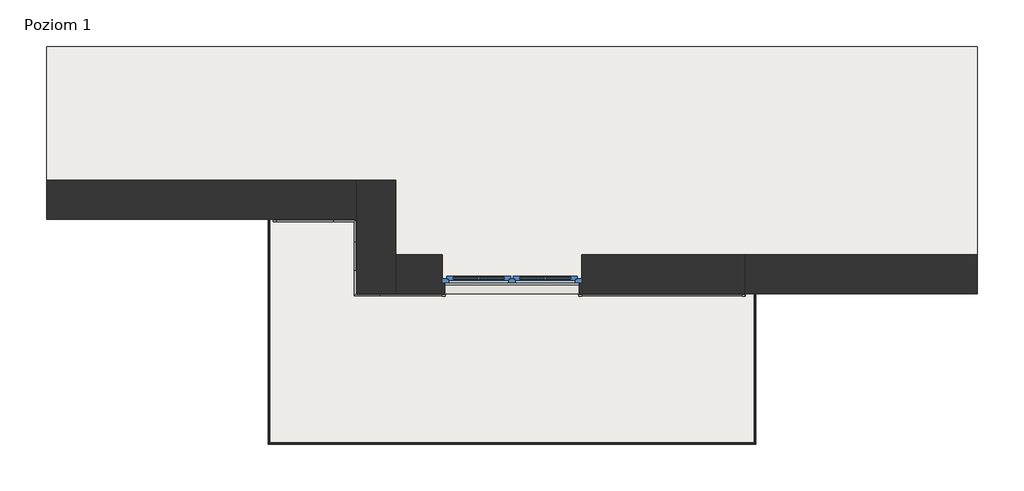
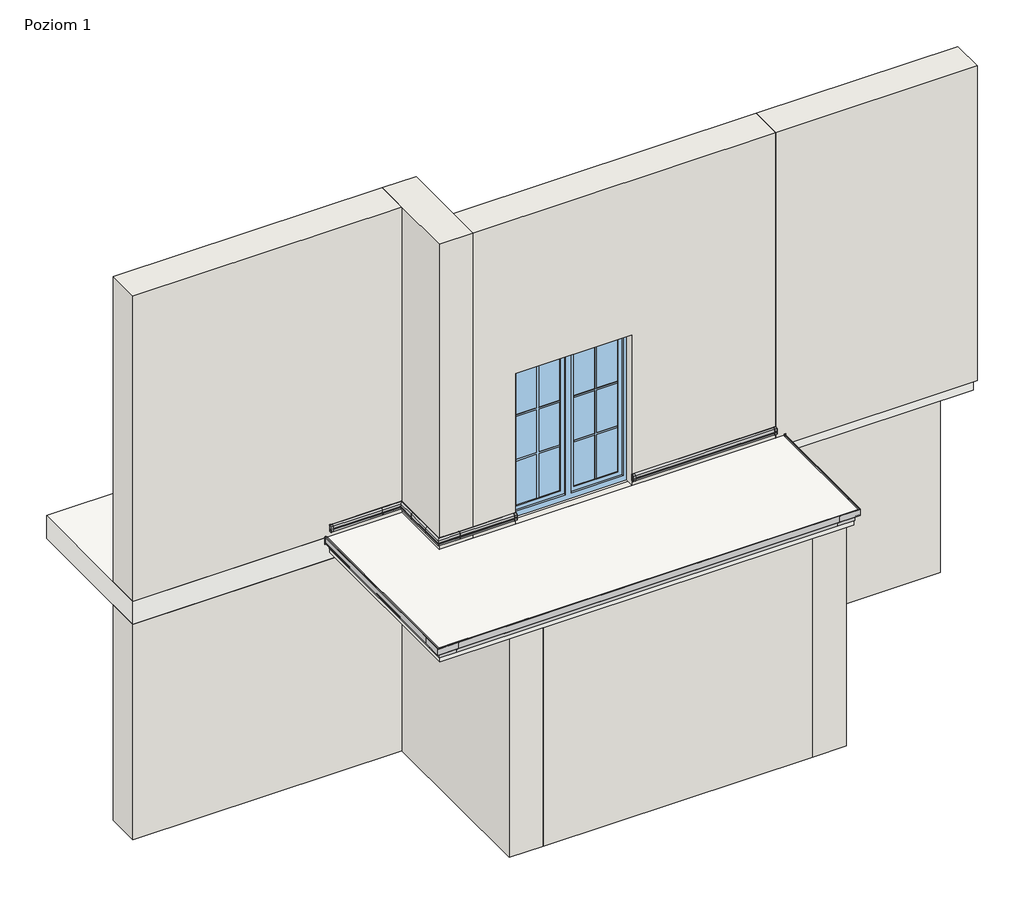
# One storey, part 1 of 4: 17 proxies, 10 walls, 3 slabs, 1 window.
"""IFC4 building model written with IfcOpenShell, lengths in millimetres."""

from ifc_helpers import new_model, si_unit, frame, origin, origin_with_axes, place, context, project, spatial, polyline, outline, extrude, faceted_brep, transform, mapped, element, save
from components import generic_models_5630e756, generic_models_7e4038cf, generic_models_e965f30e, generic_models_d03b9ba1, c1_c1_9b41bbc7, c1_c1_627c1544, c1_c1_27504b22, c1_c1_5f5cac99, c2_53e763b1, c2_f27c1ca5, c2_118964cf, c2_5aa5cb82, w63_5dd79a54, w63_d7f169f1, w63_e9272406, window_150x200_12b14935

model = new_model("IFC4")

# Units and contexts
model_context = context("Model", 3, world=origin())
ifc_project = project(units=[si_unit("LENGTHUNIT", "METRE", prefix="MILLI")], contexts=[model_context])

# Site, building, storey
site = spatial("IfcSite", under=ifc_project)
building = spatial("IfcBuilding", under=site)
storey = spatial("IfcBuildingStorey", under=building, Name="Poziom 1", Elevation=0.0)

# Proxies
placement = place(None, origin())
generic_models_shape = generic_models_5630e756(model_context)
element("IfcBuildingElementProxy", 1, Name="Odbojniki - OPW63 : Odbojniki - OPW63", ObjectType="Odbojniki - OPW63 : Odbojniki - OPW63", at=placement, inside=storey, context=model_context, shape_type="MappedRepresentation", body=[
    mapped(generic_models_shape, transform((-100537.9865026, 45260.2483344, -55.0), x_axis=(0.0, -1.0, 0.0), y_axis=(1.0, 0.0, 0.0), z_axis=(0.0, 0.0, 1.0))),
])
generic_models_2_shape = generic_models_7e4038cf(model_context)
element("IfcBuildingElementProxy", 2, Name="Odbojniki - OPW63 : Odbojniki - OPW63", ObjectType="Odbojniki - OPW63 : Odbojniki - OPW63", at=placement, inside=storey, context=model_context, shape_type="MappedRepresentation", body=[
    mapped(generic_models_2_shape, transform((-105770.4865026, 46060.2483344, -55.0), x_axis=(0.0, -1.0, 0.0), y_axis=(1.0, 0.0, 0.0), z_axis=(0.0, 0.0, 1.0))),
])
generic_models_3_shape = generic_models_e965f30e(model_context)
element("IfcBuildingElementProxy", 3, Name="Zakonczenia cokolowe OPC2 : Zakonczenia cokolowe OPC2", ObjectType="Zakonczenia cokolowe OPC2 : Zakonczenia cokolowe OPC2", at=placement, inside=storey, context=model_context, shape_type="MappedRepresentation", body=[
    mapped(generic_models_3_shape, transform((-102435.2365026, 45237.6483331, 151.7982018), x_axis=(0.0, 0.0, 1.0), y_axis=(0.0, -1.0, 0.0), z_axis=(1.0, 0.0, 0.0))),
])
element("IfcBuildingElementProxy", 4, Name="Zakonczenia cokolowe OPC2 : Zakonczenia cokolowe OPC2", ObjectType="Zakonczenia cokolowe OPC2 : Zakonczenia cokolowe OPC2", at=placement, inside=storey, context=model_context, shape_type="MappedRepresentation", body=[
    mapped(generic_models_3_shape, transform((-105718.2365026, 46037.6483331, 151.7982018), x_axis=(0.0, 0.0, 1.0), y_axis=(0.0, -1.0, 0.0), z_axis=(1.0, 0.0, 0.0))),
])
generic_models_4_shape = generic_models_d03b9ba1(model_context)
element("IfcBuildingElementProxy", 5, Name="Zakonczenia cokolowe OPC2 : Zakonczenia cokolowe OPC2", ObjectType="Zakonczenia cokolowe OPC2 : Zakonczenia cokolowe OPC2", at=placement, inside=storey, context=model_context, shape_type="MappedRepresentation", body=[
    mapped(generic_models_4_shape, transform((-100653.2365026, 45237.6483331, 151.7982018), x_axis=(0.0, 0.0, 1.0), y_axis=(0.0, 1.0, 0.0), z_axis=(-1.0, 0.0, 0.0))),
])
element("IfcBuildingElementProxy", 6, Name="Zakonczenia cokolowe OPC2 : Zakonczenia cokolowe OPC2", ObjectType="Zakonczenia cokolowe OPC2 : Zakonczenia cokolowe OPC2", at=placement, inside=storey, context=model_context, shape_type="MappedRepresentation", body=[
    mapped(generic_models_4_shape, transform((-103873.2365026, 45237.6483331, 151.7982018), x_axis=(0.0, 0.0, 1.0), y_axis=(0.0, 1.0, 0.0), z_axis=(-1.0, 0.0, 0.0))),
])
c1_c1_shape = c1_c1_9b41bbc7(model_context)
element("IfcBuildingElementProxy", 7, Name="C1 : C1", ObjectType="C1 : C1", at=placement, inside=storey, context=model_context, shape_type="MappedRepresentation", body=[
    mapped(c1_c1_shape, transform((-105717.2365026, 46063.2483344, 150.0), x_axis=(1.0, 0.0, 0.0), y_axis=(0.0, 0.0, 1.0), z_axis=(0.0, -1.0, 0.0))),
])
c1_c1_2_shape = c1_c1_627c1544(model_context)
element("IfcBuildingElementProxy", 8, Name="C1 : C1", ObjectType="C1 : C1", at=placement, inside=storey, context=model_context, shape_type="MappedRepresentation", body=[
    mapped(c1_c1_2_shape, transform((-104824.2365026, 46063.2483344, 150.0), x_axis=(0.0, -1.0, 0.0), y_axis=(0.0, 0.0, 1.0), z_axis=(-1.0, 0.0, 0.0))),
])
c1_c1_3_shape = c1_c1_27504b22(model_context)
element("IfcBuildingElementProxy", 9, Name="C1 : C1", ObjectType="C1 : C1", at=placement, inside=storey, context=model_context, shape_type="MappedRepresentation", body=[
    mapped(c1_c1_3_shape, transform((-104824.2365026, 45263.2483344, 150.0), x_axis=(1.0, 0.0, 0.0), y_axis=(0.0, 0.0, 1.0), z_axis=(0.0, -1.0, 0.0))),
])
c1_c1_4_shape = c1_c1_5f5cac99(model_context)
element("IfcBuildingElementProxy", 10, Name="C1 : C1", ObjectType="C1 : C1", at=placement, inside=storey, context=model_context, shape_type="MappedRepresentation", body=[
    mapped(c1_c1_4_shape, transform((-102434.2365026, 45263.2483344, 150.0), x_axis=(1.0, 0.0, 0.0), y_axis=(0.0, 0.0, 1.0), z_axis=(0.0, -1.0, 0.0))),
])
c2_shape = c2_53e763b1(model_context)
element("IfcBuildingElementProxy", 11, Name="C2 profil cokolowy : C2", ObjectType="C2 profil cokolowy : C2", at=placement, inside=storey, context=model_context, shape_type="MappedRepresentation", body=[
    mapped(c2_shape, transform((-102434.2365026, 45263.2483344, 150.0), x_axis=(1.0, 0.0, 0.0), y_axis=(0.0, 0.0, 1.0), z_axis=(0.0, -1.0, 0.0))),
])
c2_2_shape = c2_f27c1ca5(model_context)
element("IfcBuildingElementProxy", 12, Name="C2 profil cokolowy : C2", ObjectType="C2 profil cokolowy : C2", at=placement, inside=storey, context=model_context, shape_type="MappedRepresentation", body=[
    mapped(c2_2_shape, transform((-105717.2365026, 46063.2483344, 150.0), x_axis=(1.0, 0.0, 0.0), y_axis=(0.0, 0.0, 1.0), z_axis=(0.0, -1.0, 0.0))),
])
c2_3_shape = c2_118964cf(model_context)
element("IfcBuildingElementProxy", 13, Name="C2 profil cokolowy : C2", ObjectType="C2 profil cokolowy : C2", at=placement, inside=storey, context=model_context, shape_type="MappedRepresentation", body=[
    mapped(c2_3_shape, transform((-104824.2365026, 45816.2483344, 150.0), x_axis=(0.0, -1.0, 0.0), y_axis=(0.0, 0.0, 1.0), z_axis=(-1.0, 0.0, 0.0))),
])
c2_4_shape = c2_5aa5cb82(model_context)
element("IfcBuildingElementProxy", 14, Name="C2 profil cokolowy : C2", ObjectType="C2 profil cokolowy : C2", at=placement, inside=storey, context=model_context, shape_type="MappedRepresentation", body=[
    mapped(c2_4_shape, transform((-104577.2365026, 45263.2483344, 150.0), x_axis=(1.0, 0.0, 0.0), y_axis=(0.0, 0.0, 1.0), z_axis=(0.0, -1.0, 0.0))),
])
w63_shape = w63_5dd79a54(model_context)
element("IfcBuildingElementProxy", 15, Name="W63 Profil okapowy prosty : W63", ObjectType="W63 Profil okapowy prosty : W63", at=placement, inside=storey, context=model_context, shape_type="MappedRepresentation", body=[
    mapped(w63_shape, transform((-105717.2365026, 43700.2483344, -55.0), x_axis=(1.0, 0.0, 0.0), y_axis=(0.0, 1.0, 0.0), z_axis=(0.0, 0.0, 1.0))),
])
w63_2_shape = w63_d7f169f1(model_context)
element("IfcBuildingElementProxy", 16, Name="W63 Profil okapowy prosty : W63", ObjectType="W63 Profil okapowy prosty : W63", at=placement, inside=storey, context=model_context, shape_type="MappedRepresentation", body=[
    mapped(w63_2_shape, transform((-105717.2365026, 46063.2483344, -55.0), x_axis=(0.0, -1.0, 0.0), y_axis=(1.0, 0.0, 0.0), z_axis=(0.0, 0.0, 1.0))),
])
w63_3_shape = w63_e9272406(model_context)
element("IfcBuildingElementProxy", 17, Name="W63 Profil okapowy prosty : W63", ObjectType="W63 Profil okapowy prosty : W63", at=placement, inside=storey, context=model_context, shape_type="MappedRepresentation", body=[
    mapped(w63_3_shape, transform((-100591.2365026, 45263.2483344, -55.0), x_axis=(0.0, -1.0, 0.0), y_axis=(1.0, 0.0, 0.0), z_axis=(0.0, 0.0, 1.0))),
])

# Slabs
element("IfcSlab", 18, ObjectType="Taras - wykończenie - posadzka z płytek grubowarstwowych - podkładka P1 - hydroizolacja", at=placement, inside=storey, context=model_context, shape_type="SweptSolid", body=[
    extrude(outline(polyline([(-105717.2365026, 43700.2483344), (-105717.2365026, 46063.2483344), (-104824.2365026, 46063.2483344), (-104824.2365026, 45285.2483344), (-100591.2365026, 45285.2483344), (-100591.2365026, 43700.2483344), (-105717.2365026, 43700.2483344)])), frame((0.0, 0.0, -215.0), z_axis=(0.0, 0.0, 1.0), x_axis=(1.0, 0.0, 0.0)), (0.0, 0.0, 1.0), 160.0),
])
element("IfcSlab", 19, ObjectType="Taras - wykończenie - posadzka z płytek grubowarstwowych", at=placement, inside=storey, context=model_context, shape_type="SweptSolid", body=[
    extrude(outline(polyline([(-105749.4365026, 43668.0483344), (-105749.4365026, 46063.2483344), (-104824.2365026, 46063.2483344), (-104824.2365026, 45263.2483344), (-100559.0365026, 45263.2483344), (-100559.0365026, 43668.0483344), (-105749.4365026, 43668.0483344)])), frame((0.0, 0.0, -55.0), z_axis=(0.0, 0.0, 1.0), x_axis=(1.0, 0.0, 0.0)), (0.0, 0.0, 1.0), 55.0),
])
element("IfcSlab", 20, ObjectType="Strop", at=placement, inside=storey, context=model_context, shape_type="Brep", body=[
    faceted_brep([(-98154.2365026, 45352.2483344, -300.0), (-104824.2365026, 45352.2483344, -300.0), (-104824.2365026, 46063.2483344, -300.0), (-108154.2365026, 46063.2483344, -300.0), (-108154.2365026, 46483.2483344, -300.0), (-108154.2365026, 47918.2483344, -300.0), (-98154.2365026, 47918.2483344, -300.0), (-98154.2365026, 46483.2483344, -300.0), (-98154.2365026, 46063.2483344, -300.0), (-98154.2365026, 45352.2483344, 0.0), (-98154.2365026, 45683.2483344, 0.0), (-98154.2365026, 47918.2483344, 0.0), (-108154.2365026, 47918.2483344, 0.0), (-108154.2365026, 46063.2483344, 0.0), (-104824.2365026, 46063.2483344, 0.0), (-104824.2365026, 45352.2483344, 0.0), (-104404.2365026, 45352.2483344, 0.0), (-103874.2365026, 45352.2483344, 0.0), (-102434.2365026, 45352.2483344, 0.0), (-100654.2365026, 45352.2483344, 0.0), (-98154.2365026, 45352.2483344, -125.0)], [[[0, 1, 2, 3, 4, 5, 6, 7, 8]], [[9, 10, 11, 12, 13, 14, 15, 16, 17, 18, 19]], [[1, 0, 20, 9, 19, 18, 17, 16, 15]], [[5, 4, 3, 13, 12]], [[6, 5, 12, 11]], [[0, 8, 7, 6, 11, 10, 9, 20]], [[2, 1, 15, 14]], [[3, 2, 14, 13]]]),
])

# Walls
element("IfcWall", 21, ObjectType="Porotherm P+W 25 + o15 + t", at=placement, inside=storey, context=model_context, shape_type="Brep", body=[
    faceted_brep([(-108154.2365026, 46063.2483344, -3125.0), (-104824.2365026, 46063.2483344, -3125.0), (-104404.2365026, 46063.2483344, -3125.0), (-104404.2365026, 46063.2483344, -300.0), (-104824.2365026, 46063.2483344, -300.0), (-108154.2365026, 46063.2483344, -300.0), (-104404.2365026, 46483.2483344, -3125.0), (-108154.2365026, 46483.2483344, -3125.0), (-108154.2365026, 46483.2483344, -300.0), (-104404.2365026, 46483.2483344, -300.0), (-104404.2365026, 46203.2483344, -3125.0), (-104404.2365026, 46203.2483344, -300.0)], [[[0, 1, 2, 3, 4, 5]], [[6, 7, 8, 9]], [[2, 1, 0, 7, 6, 10]], [[7, 0, 5, 8]], [[2, 10, 6, 9, 11, 3]], [[4, 3, 11, 9, 8, 5]]]),
])
element("IfcWall", 22, ObjectType="Porotherm P+W 25 + o15 + t", at=placement, inside=storey, context=model_context, shape_type="Brep", body=[
    faceted_brep([(-104824.2365026, 46063.2483344, -3125.0), (-104824.2365026, 43758.2483344, -3125.0), (-104824.2365026, 43758.2483344, -147.509132), (-104824.2365026, 46063.2483344, -147.509132), (-104404.2365026, 46063.2483344, -3125.0), (-104404.2365026, 46063.2483344, -147.509132), (-104404.2365026, 44178.2483344, -147.509132), (-104404.2365026, 43758.2483344, -147.509132), (-104404.2365026, 43758.2483344, -3125.0), (-104404.2365026, 44178.2483344, -3125.0), (-104614.2365026, 46063.2483344, -147.509132)], [[[0, 1, 2, 3]], [[4, 5, 6, 7, 8, 9]], [[1, 0, 4, 9, 8]], [[3, 2, 7, 6, 5, 10]], [[2, 1, 8, 7]], [[0, 3, 10, 5, 4]]]),
])
element("IfcWall", 23, ObjectType="Porotherm P+W 25 + o15 + t", at=placement, inside=storey, context=model_context, shape_type="SweptSolid", body=[
    extrude(outline(polyline([(-101069.2365026, 43758.2483344), (-104404.2365026, 43758.2483344), (-104404.2365026, 44178.2483344), (-101069.2365026, 44178.2483344), (-101069.2365026, 43758.2483344)])), frame((0.0, 0.0, -3125.0), z_axis=(0.0, 0.0, 1.0), x_axis=(1.0, 0.0, 0.0)), (0.0, 0.0, 1.0), 2977.490868),
])
element("IfcWall", 24, ObjectType="Porotherm P+W 25 + o15 + t", at=placement, inside=storey, context=model_context, shape_type="Brep", body=[
    faceted_brep([(-100649.2365026, 43758.2483344, -3125.0), (-100649.2365026, 46063.2483344, -3125.0), (-100649.2365026, 46483.2483344, -3125.0), (-100649.2365026, 46483.2483344, -300.0), (-100649.2365026, 46483.2483344, -147.509132), (-100649.2365026, 43758.2483344, -147.509132), (-101069.2365026, 43758.2483344, -3125.0), (-101069.2365026, 43758.2483344, -147.509132), (-101069.2365026, 44178.2483344, -147.509132), (-101069.2365026, 46483.2483344, -147.509132), (-101069.2365026, 46483.2483344, -300.0), (-101069.2365026, 46483.2483344, -3125.0), (-101069.2365026, 46203.2483344, -3125.0), (-101069.2365026, 44178.2483344, -3125.0)], [[[0, 1, 2, 3, 4, 5]], [[6, 7, 8, 9, 10, 11, 12, 13]], [[2, 1, 0, 6, 13, 12, 11]], [[5, 4, 9, 8, 7]], [[0, 5, 7, 6]], [[4, 3, 2, 11, 10, 9]]]),
])
element("IfcWall", 25, ObjectType="Porotherm P+W 25 + o15 + t", at=placement, inside=storey, context=model_context, shape_type="SweptSolid", body=[
    extrude(outline(polyline([(-98154.2365026, 46063.2483344), (-100649.2365026, 46063.2483344), (-100649.2365026, 46483.2483344), (-98154.2365026, 46483.2483344), (-98154.2365026, 46063.2483344)])), frame((0.0, 0.0, -3125.0), z_axis=(0.0, 0.0, 1.0), x_axis=(1.0, 0.0, 0.0)), (0.0, 0.0, 1.0), 2825.0),
])
element("IfcWall", 26, ObjectType="Porotherm P+W 25(wieniec 45) + t", at=placement, inside=storey, context=model_context, shape_type="SweptSolid", body=[
    extrude(outline(polyline([(-101069.2365026, 46203.2483344), (-104404.2365026, 46203.2483344), (-104404.2365026, 46483.2483344), (-101069.2365026, 46483.2483344), (-101069.2365026, 46203.2483344)])), frame((0.0, 0.0, -3125.0), z_axis=(0.0, 0.0, 1.0), x_axis=(1.0, 0.0, 0.0)), (0.0, 0.0, 1.0), 2825.0),
])
element("IfcWall", 27, ObjectType="Porotherm P+W 25 + o15 + t", at=placement, inside=storey, context=model_context, shape_type="Brep", body=[
    faceted_brep([(-104404.2365026, 45263.2483344, -125.0), (-100654.2365026, 45263.2483344, -125.0), (-100654.2365026, 45263.2483344, 4000.0), (-104404.2365026, 45263.2483344, 4000.0), (-103874.2365026, 45263.2483344, 1970.0), (-102434.2365026, 45263.2483344, 1970.0), (-102434.2365026, 45263.2483344, 0.0), (-103874.2365026, 45263.2483344, 0.0), (-104404.2365026, 45683.2483344, 4000.0), (-100654.2365026, 45683.2483344, 4000.0), (-100654.2365026, 45683.2483344, 0.0), (-102404.2365026, 45683.2483344, 0.0), (-102404.2365026, 45683.2483344, 2000.0), (-103904.2365026, 45683.2483344, 2000.0), (-103904.2365026, 45683.2483344, 0.0), (-104404.2365026, 45683.2483344, 0.0), (-104404.2365026, 45352.2483344, -125.0), (-100654.2365026, 45352.2483344, -125.0), (-100654.2365026, 45352.2483344, 0.0), (-103904.2365026, 45383.2483344, 2000.0), (-102404.2365026, 45383.2483344, 2000.0), (-102434.2365026, 45352.2483344, 0.0), (-103874.2365026, 45352.2483344, 0.0), (-102404.2365026, 45383.2483344, 0.0), (-102434.2365026, 45383.2483344, 0.0), (-102434.2365026, 45383.2483344, 1970.0), (-103874.2365026, 45383.2483344, 1970.0), (-103874.2365026, 45383.2483344, 0.0), (-103904.2365026, 45383.2483344, 0.0), (-104404.2365026, 45352.2483344, 0.0)], [[[0, 1, 2, 3], [4, 5, 6, 7]], [[8, 9, 10, 11, 12, 13, 14, 15]], [[1, 0, 16, 17]], [[2, 1, 17, 18, 10, 9]], [[3, 2, 9, 8]], [[19, 13, 12, 20]], [[7, 6, 21, 22]], [[19, 20, 23, 24, 25, 26, 27, 28]], [[20, 12, 11, 23]], [[13, 19, 28, 14]], [[4, 26, 25, 5]], [[5, 25, 24, 21, 6]], [[26, 4, 7, 22, 27]], [[18, 21, 24, 23, 11, 10]], [[22, 29, 15, 14, 28, 27]], [[21, 18, 17, 16, 29, 22]], [[0, 3, 8, 15, 29, 16]]]),
])
element("IfcWall", 28, ObjectType="Porotherm P+W 25 + o15 + t", at=placement, inside=storey, context=model_context, shape_type="SweptSolid", body=[
    extrude(outline(polyline([(45263.2483344, -125.0), (45263.2483344, 4000.0), (45683.2483344, 4000.0), (45683.2483344, 0.0), (45352.2483344, 0.0), (45352.2483344, -125.0), (45263.2483344, -125.0)])), frame((-100654.2365026, 0.0, 0.0), z_axis=(1.0, 0.0, 0.0), x_axis=(0.0, 1.0, 0.0)), (0.0, 0.0, 1.0), 2500.0),
])
element("IfcWall", 29, ObjectType="Porotherm P+W 25 + o15 + t", at=placement, inside=storey, context=model_context, shape_type="Brep", body=[
    faceted_brep([(-104404.2365026, 45263.2483344, 0.0), (-104404.2365026, 46483.2483344, 0.0), (-104404.2365026, 46483.2483344, 4000.0), (-104404.2365026, 45263.2483344, 4000.0), (-104824.2365026, 45263.2483344, 0.0), (-104824.2365026, 45263.2483344, 4000.0), (-104824.2365026, 46063.2483344, 4000.0), (-104824.2365026, 46483.2483344, 4000.0), (-104824.2365026, 46483.2483344, 0.0), (-104824.2365026, 46063.2483344, 0.0)], [[[0, 1, 2, 3]], [[4, 5, 6, 7, 8, 9]], [[1, 0, 4, 9, 8]], [[3, 2, 7, 6, 5]], [[2, 1, 8, 7]], [[0, 3, 5, 4]]]),
])
element("IfcWall", 30, ObjectType="Porotherm P+W 25 + o15 + t", at=placement, inside=storey, context=model_context, shape_type="SweptSolid", body=[
    extrude(outline(polyline([(-108154.2365026, 46483.2483344), (-104824.2365026, 46483.2483344), (-104824.2365026, 46063.2483344), (-108154.2365026, 46063.2483344), (-108154.2365026, 46483.2483344)])), origin_with_axes(), (0.0, 0.0, 1.0), 4000.0),
])

# Window
window_150x200_shape = window_150x200_12b14935(model_context)
element("IfcWindow", 31, ObjectType="OKNO_2X_W_SZ : 150x200", at=placement, inside=storey, context=model_context, shape_type="MappedRepresentation", body=[
    mapped(window_150x200_shape, transform((-103154.2365026, 45473.2483344, -850.0), x_axis=(-1.0, 0.0, 0.0), y_axis=(0.0, -1.0, 0.0), z_axis=(0.0, 0.0, 1.0))),
])

save(model, "model.ifc")
